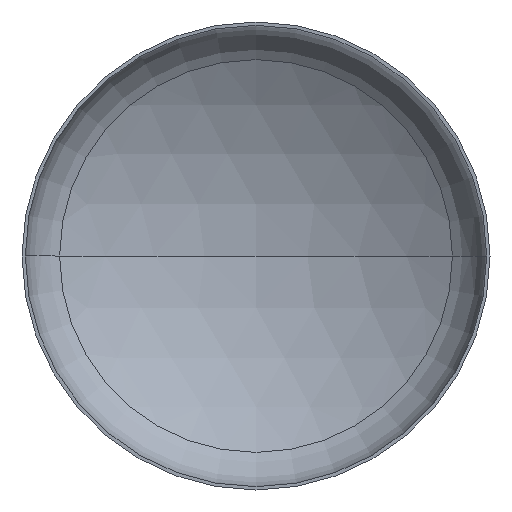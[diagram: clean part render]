
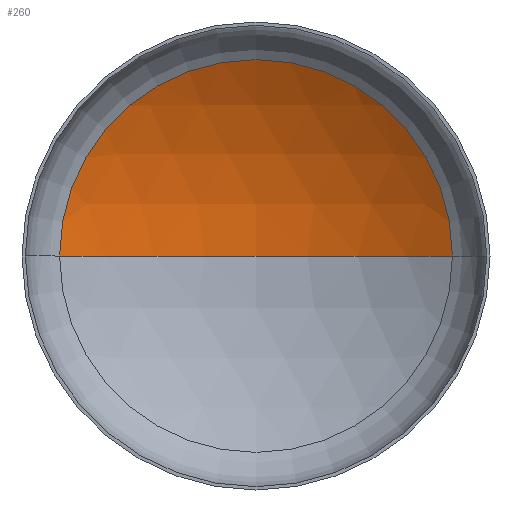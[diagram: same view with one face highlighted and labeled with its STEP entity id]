
A CAD part, front view. The second image highlights one B-rep face of the part: STEP entity #260.
In plain terms, the highlighted spherical face has radius 6000 mm.
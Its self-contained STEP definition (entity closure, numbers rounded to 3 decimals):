
#10 = ORIENTED_EDGE ( 'NONE', *, *, #262, .T. ) ;
#15 = CARTESIAN_POINT ( 'NONE',  ( -3146.749, 1103.409, 0. ) ) ;
#30 = FACE_OUTER_BOUND ( 'NONE', #111, .T. ) ;
#41 = VERTEX_POINT ( 'NONE', #15 ) ;
#42 = DIRECTION ( 'NONE',  ( -1., 0., 0. ) ) ;
#58 = ORIENTED_EDGE ( 'NONE', *, *, #266, .F. ) ;
#91 = AXIS2_PLACEMENT_3D ( 'NONE', #269, #267, #265 ) ;
#95 = VERTEX_POINT ( 'NONE', #294 ) ;
#97 = VERTEX_POINT ( 'NONE', #236 ) ;
#109 = ORIENTED_EDGE ( 'NONE', *, *, #259, .T. ) ;
#111 = EDGE_LOOP ( 'NONE', ( #58, #10, #109 ) ) ;
#114 = AXIS2_PLACEMENT_3D ( 'NONE', #314, #296, #42 ) ;
#123 = AXIS2_PLACEMENT_3D ( 'NONE', #200, #202, #252 ) ;
#124 = AXIS2_PLACEMENT_3D ( 'NONE', #405, #242, #270 ) ;
#148 = CIRCLE ( 'NONE', #91, 6000. ) ;
#162 = CIRCLE ( 'NONE', #124, 3146.749 ) ;
#200 = CARTESIAN_POINT ( 'NONE',  ( 0., -4005.208, 0. ) ) ;
#202 = DIRECTION ( 'NONE',  ( 0., 0., -1. ) ) ;
#236 = CARTESIAN_POINT ( 'NONE',  ( 3146.749, 1103.409, 0. ) ) ;
#237 = CIRCLE ( 'NONE', #123, 6000. ) ;
#242 = DIRECTION ( 'NONE',  ( 0., -1., 0. ) ) ;
#252 = DIRECTION ( 'NONE',  ( -1., 0., 0. ) ) ;
#259 = EDGE_CURVE ( 'NONE', #97, #41, #162, .T. ) ;
#260 = ADVANCED_FACE ( 'NONE', ( #30 ), #307, .F. ) ;
#262 = EDGE_CURVE ( 'NONE', #95, #97, #237, .T. ) ;
#265 = DIRECTION ( 'NONE',  ( 1., 0., 0. ) ) ;
#266 = EDGE_CURVE ( 'NONE', #95, #41, #148, .T. ) ;
#267 = DIRECTION ( 'NONE',  ( 0., 0., 1. ) ) ;
#269 = CARTESIAN_POINT ( 'NONE',  ( 0., -4005.208, 0. ) ) ;
#270 = DIRECTION ( 'NONE',  ( 1., 0., 0. ) ) ;
#294 = CARTESIAN_POINT ( 'NONE',  ( 0., 1994.792, 0. ) ) ;
#296 = DIRECTION ( 'NONE',  ( 0., 0., -1. ) ) ;
#307 = SPHERICAL_SURFACE ( 'NONE', #114, 6000. ) ;
#314 = CARTESIAN_POINT ( 'NONE',  ( 0., -4005.208, 0. ) ) ;
#405 = CARTESIAN_POINT ( 'NONE',  ( 0., 1103.409, 0. ) ) ;
